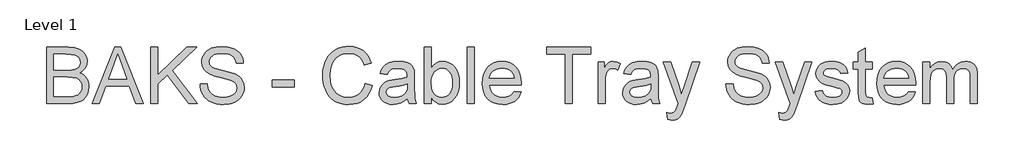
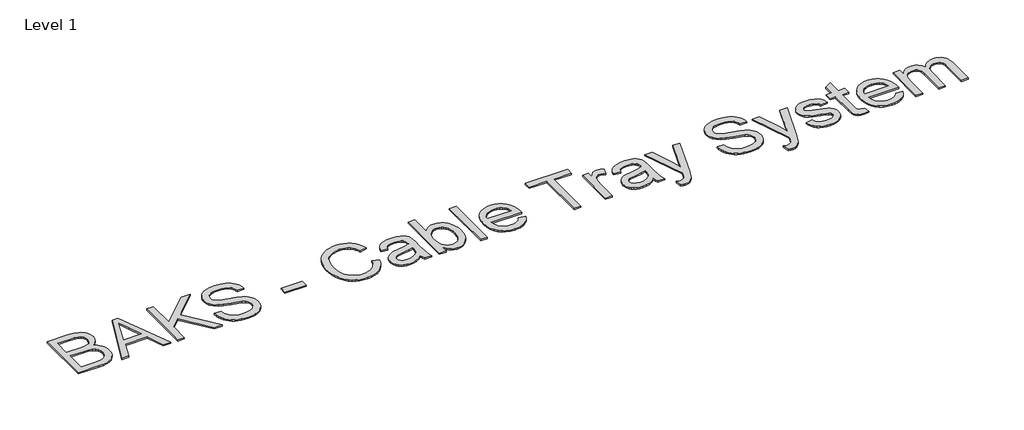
# One storey, part 16 of 32: 1 proxy.
"""IFC4 building model written with IfcOpenShell, lengths in millimetres."""

from ifc_helpers import new_model, si_unit, origin, origin_with_axes, place, context, project, spatial, polyline, outline, extrude, element, save

model = new_model("IFC4")

# Units and contexts
model_context = context("Model", 3, world=origin())
ifc_project = project(units=[si_unit("LENGTHUNIT", "METRE", prefix="MILLI")], contexts=[model_context])

# Site, building, storey
site = spatial("IfcSite", under=ifc_project)
building = spatial("IfcBuilding", under=site)
storey = spatial("IfcBuildingStorey", under=building, Name="Level 1", Elevation=0.0)

# Proxy
placement = place(None, origin())
element("IfcBuildingElementProxy", 1, Name="600mm Arial", ObjectType="600mm Arial", at=placement, inside=storey, context=model_context, shape_type="SweptSolid", body=[
    extrude(outline(polyline([(-18652.1736958, 74450.7318965), (-18652.1736958, 75053.4697574), (-18422.1738724, 75053.4697574), (-18358.9165633, 75049.0367793), (-18309.5284054, 75035.7378452), (-18289.4512456, 75025.6808712), (-18271.6733481, 75013.2418612), (-18256.1947132, 74998.4208153), (-18243.0153407, 74981.2177335), (-18224.9707289, 74943.5466172), (-18218.9558582, 74904.1096673), (-18224.0142357, 74867.8181085), (-18239.189368, 74833.6970535), (-18264.5916197, 74803.8434295), (-18300.3313556, 74780.3541642), (-18277.5916497, 74770.6604736), (-18257.63865, 74758.0605152), (-18240.4723564, 74742.5542891), (-18226.0927689, 74724.1417953), (-18214.7298138, 74703.3840537), (-18206.6134173, 74680.8420845), (-18201.7435794, 74656.5158875), (-18200.1203001, 74630.4054629), (-18204.5532781, 74588.374945), (-18217.8522123, 74549.3978476), (-18237.6994459, 74516.2516798), (-18261.7773225, 74491.7139507), (-18291.2630644, 74473.9452504), (-18327.333894, 74461.1061687), (-18371.1670337, 74453.3254645), (-18423.9397059, 74450.7318965), (-18652.1736958, 74450.7318965)]), holes=[polyline([(-18576.8314631, 74808.6075014), (-18439.2435969, 74808.6075014), (-18391.124632, 74810.2261822), (-18358.8981692, 74815.0822245), (-18330.7735907, 74826.247443), (-18310.558475, 74842.9676797), (-18298.3631869, 74864.9854171), (-18294.2980908, 74892.0431379), (-18298.0872754, 74918.3099123), (-18309.4548291, 74941.1921724), (-18327.885717, 74959.0528433), (-18352.8649045, 74970.2548501), (-18391.1982084, 74976.1593561), (-18449.6914456, 74978.1275248), (-18576.8314631, 74978.1275248), (-18576.8314631, 74808.6075014)]), polyline([(-18576.8314631, 74526.0741291), (-18422.3210252, 74526.0741291), (-18366.4029619, 74529.017185), (-18340.4488871, 74535.5470905), (-18319.0933373, 74545.424722), (-18301.7293072, 74559.5697847), (-18287.7497913, 74578.9019836), (-18278.5343474, 74602.5567959), (-18275.4625327, 74629.6696989), (-18279.0677762, 74661.1603977), (-18289.8835069, 74688.2365126), (-18308.7742474, 74709.4081214), (-18336.6045203, 74723.1853021), (-18376.0230761, 74730.7452771), (-18429.6786651, 74733.2652688), (-18576.8314631, 74733.2652688), (-18576.8314631, 74526.0741291)])]), origin_with_axes(), (0.0, 0.0, 1.0), 15.0),
    extrude(outline(polyline([(-18166.7166149, 74450.7318965), (-17926.1217901, 75053.4697574), (-17861.9631701, 75053.4697574), (-17621.3683453, 74450.7318965), (-17700.978009, 74450.7318965), (-17769.9926713, 74639.087478), (-18018.2394417, 74639.087478), (-18087.1069512, 74450.7318965), (-18166.7166149, 74450.7318965)]), holes=[polyline([(-17990.5747156, 74714.4297106), (-17797.5102446, 74714.4297106), (-17851.8096271, 74862.6125783), (-17894.0424801, 74978.1275248), (-17931.5664436, 74875.5620245), (-17990.5747156, 74714.4297106)])]), origin_with_axes(), (0.0, 0.0, 1.0), 15.0),
    extrude(outline(polyline([(-17540.8757647, 74450.7318965), (-17540.8757647, 75053.4697574), (-17465.5335321, 75053.4697574), (-17465.5335321, 74758.4283972), (-17156.5126562, 75053.4697574), (-17051.1512527, 75053.4697574), (-17310.5816357, 74805.6644454), (-17041.7334737, 74450.7318965), (-17133.8511253, 74450.7318965), (-17363.9981014, 74754.7495773), (-17465.5335321, 74657.9230362), (-17465.5335321, 74450.7318965), (-17540.8757647, 74450.7318965)])), origin_with_axes(), (0.0, 0.0, 1.0), 15.0),
    extrude(outline(polyline([(-17013.4801364, 74657.9230362), (-16938.1379038, 74657.9230362), (-16929.4926769, 74616.1132474), (-16913.8576921, 74582.5072271), (-16889.4671159, 74555.8357825), (-16854.5551145, 74534.8297206), (-16811.8808031, 74521.1996926), (-16764.2032965, 74516.65635), (-16722.2279609, 74520.0960467), (-16685.4765495, 74530.4151366), (-16655.696502, 74546.7490972), (-16634.6352578, 74568.2334057), (-16622.1088759, 74592.8998935), (-16617.9334152, 74618.7803919), (-16621.0604122, 74643.9987026), (-16630.4414031, 74665.7957109), (-16649.4976904, 74684.3921457), (-16681.6505768, 74700.0087364), (-16791.3529878, 74728.7771084), (-16863.3658883, 74747.8150017), (-16909.4431082, 74765.9331899), (-16946.9486776, 74791.2802594), (-16973.5281518, 74821.998406), (-16989.3654717, 74857.4254421), (-16994.6445783, 74896.8991802), (-16993.0121019, 74919.3353834), (-16988.1146729, 74941.0266255), (-16979.9522911, 74961.9729066), (-16968.5249566, 74982.1742267), (-16953.9614281, 75000.8074498), (-16936.3904644, 75017.0494398), (-16915.8120652, 75030.900197), (-16892.2262308, 75042.3597211), (-16839.2144353, 75057.7555826), (-16780.5372571, 75062.8875364), (-16716.9672483, 75057.5164593), (-16661.3434907, 75041.4032279), (-16637.0080967, 75029.4010778), (-16615.6525469, 75014.8789361), (-16597.2768412, 74997.8368026), (-16581.8809797, 74978.2746776), (-16569.584524, 74956.7627779), (-16560.5070358, 74933.8713207), (-16554.648515, 74909.6003061), (-16552.0089617, 74883.949734), (-16627.3511943, 74883.949734), (-16632.3911776, 74907.9908224), (-16641.1835573, 74928.9049138), (-16653.7283334, 74946.6920083), (-16670.0255057, 74961.3521058), (-16690.3785771, 74972.8116299), (-16715.0910502, 74980.9970043), (-16744.1629248, 74985.908229), (-16777.5942011, 74987.5453038), (-16812.0923352, 74985.9266231), (-16841.5688801, 74981.0705807), (-16866.0238357, 74972.9771768), (-16885.4572021, 74961.6464114), (-16900.2644524, 74948.0255805), (-16910.8410598, 74933.0619803), (-16917.1870242, 74916.7556109), (-16919.3023457, 74899.1064722), (-16917.8032265, 74883.9221428), (-16913.3058692, 74870.1541592), (-16905.8102735, 74857.8025212), (-16895.3164396, 74846.8672289), (-16878.798538, 74836.5113507), (-16852.7892809, 74826.045108), (-16772.2967004, 74804.7815286), (-16689.2289459, 74784.5848071), (-16638.9762654, 74766.9632595), (-16596.0260424, 74739.6296273), (-16579.4207689, 74723.5623811), (-16566.0620539, 74705.8948483), (-16555.7935477, 74686.7189993), (-16548.4589004, 74666.1268046), (-16542.5911826, 74620.6933782), (-16544.2788413, 74597.1259379), (-16549.3418172, 74574.2482764), (-16557.7801105, 74552.0603935), (-16569.5937211, 74530.5622894), (-16584.5757153, 74510.5862971), (-16602.5191596, 74492.9647495), (-16623.424054, 74477.6976467), (-16647.2903984, 74464.7849887), (-16673.4238157, 74454.5164825), (-16701.1299284, 74447.1818352), (-16761.2602405, 74441.3141174), (-16799.8004781, 74442.89601), (-16835.0757629, 74447.6416877), (-16867.086095, 74455.5511506), (-16895.8314744, 74466.6243987), (-16921.486645, 74480.879826), (-16944.2263508, 74498.3358266), (-16964.0505919, 74518.9924007), (-16980.9593681, 74542.8495481), (-16994.5801989, 74569.1347166), (-17004.540604, 74597.0753542), (-17010.8405831, 74626.6714607), (-17013.4801364, 74657.9230362)])), origin_with_axes(), (0.0, 0.0, 1.0), 15.0),
    extrude(outline(polyline([(-16241.2222522, 74629.6696989), (-16241.2222522, 74705.0119315), (-16005.7777753, 74705.0119315), (-16005.7777753, 74629.6696989), (-16241.2222522, 74629.6696989)])), origin_with_axes(), (0.0, 0.0, 1.0), 15.0),
    extrude(outline(polyline([(-15252.3554491, 74664.9863705), (-15177.0132165, 74645.5622011), (-15191.9216344, 74598.7078305), (-15211.7780651, 74557.767163), (-15236.5825086, 74522.7401985), (-15266.3349649, 74493.6269371), (-15300.3640495, 74470.7400785), (-15337.9983776, 74454.3923223), (-15379.2379493, 74444.5836686), (-15424.0827645, 74441.3141174), (-15470.0266272, 74443.7881238), (-15511.4731324, 74451.2101431), (-15548.4222803, 74463.5801752), (-15580.8740708, 74480.8982201), (-15609.2745609, 74502.9067604), (-15634.0698073, 74529.3482788), (-15655.2598102, 74560.2227753), (-15672.8445696, 74595.5302498), (-15686.65394, 74633.743992), (-15696.517776, 74673.3372918), (-15702.4360776, 74714.310149), (-15704.4088448, 74756.6625637), (-15702.1785602, 74802.1051871), (-15695.4877064, 74844.5495723), (-15684.3362834, 74883.9957192), (-15668.7242913, 74920.4436279), (-15649.0012178, 74953.2908916), (-15625.5165509, 74981.9351034), (-15598.2702907, 75006.3762635), (-15567.262437, 75026.6143717), (-15533.5460521, 75042.4838813), (-15498.1741983, 75053.8192453), (-15461.1468755, 75060.6204637), (-15422.4640837, 75062.8875364), (-15379.3713065, 75059.9536775), (-15339.8561817, 75051.1521008), (-15303.9187093, 75036.4828062), (-15271.5588893, 75015.9457939), (-15243.3101506, 74990.0836896), (-15219.7059221, 74959.4391194), (-15200.7462037, 74924.0120833), (-15186.4309956, 74883.8025812), (-15261.7732282, 74865.8499398), (-15273.6374226, 74895.478236), (-15287.8928499, 74920.7931158), (-15304.5395101, 74941.7945792), (-15323.5774034, 74958.4826262), (-15345.1168942, 74971.1975477), (-15369.2683472, 74980.2796344), (-15396.0317623, 74985.7288865), (-15425.4071397, 74987.5453038), (-15459.206298, 74985.5311499), (-15490.1175826, 74979.4886881), (-15518.1409936, 74969.4179185), (-15543.2765309, 74955.3188411), (-15565.2068964, 74937.8260522), (-15583.6147917, 74917.5741484), (-15598.5002169, 74894.5631296), (-15609.863172, 74868.7929958), (-15624.2657522, 74813.6474847), (-15629.0666122, 74756.8097165), (-15623.3828354, 74687.206443), (-15616.2781143, 74655.9364734), (-15606.3315049, 74627.0209486), (-15593.3820587, 74601.0346841), (-15577.2688273, 74578.5524957), (-15557.9918107, 74559.5743833), (-15535.551009, 74544.1003468), (-15511.0362726, 74532.0935982), (-15485.5374518, 74523.5173492), (-15459.0545466, 74518.3715998), (-15431.5875572, 74516.65635), (-15398.832264, 74518.9924007), (-15368.6981301, 74526.0005527), (-15341.1851554, 74537.680806), (-15316.2933399, 74554.0331607), (-15294.6112948, 74574.9840403), (-15276.7276313, 74600.4598685), (-15262.6423494, 74630.4606452), (-15252.3554491, 74664.9863705)])), origin_with_axes(), (0.0, 0.0, 1.0), 15.0),
    extrude(outline(polyline([(-14800.3020535, 74507.2385709), (-14836.2993067, 74476.3732715), (-14873.3634177, 74456.17655), (-14912.3405151, 74445.0297255), (-14954.0767274, 74441.3141174), (-14987.6229669, 74443.5490005), (-15017.0397309, 74450.2536499), (-15042.3270196, 74461.4280655), (-15063.4848328, 74477.0722473), (-15080.1912739, 74496.192914), (-15092.1244461, 74517.7967842), (-15099.2843495, 74541.8838578), (-15101.6709839, 74568.4541349), (-15098.0657404, 74599.6873163), (-15087.2500097, 74628.0510181), (-15070.5665612, 74652.3312298), (-15049.3581642, 74671.3139408), (-15024.434159, 74685.6613386), (-14996.6038861, 74696.0356109), (-14931.4151965, 74707.3663763), (-14854.3807067, 74719.285753), (-14800.7435119, 74733.2652688), (-14800.3020535, 74750.0406877), (-14805.4891896, 74783.6651021), (-14811.9731098, 74796.1179076), (-14821.050598, 74805.6644454), (-14836.7407651, 74815.1925891), (-14855.8522347, 74821.998406), (-14904.3390817, 74827.4430595), (-14949.2206851, 74823.8194219), (-14980.5642311, 74812.9485089), (-15001.938175, 74792.8437579), (-15016.9109722, 74761.518606), (-15092.2532048, 74770.9363851), (-15079.1749999, 74812.1391685), (-15059.6588601, 74844.5127841), (-15031.8837694, 74869.2712424), (-14994.0287121, 74887.6285539), (-14947.730763, 74898.9961076), (-14894.626997, 74902.7852921), (-14843.6937348, 74899.437566), (-14803.3186858, 74889.3943875), (-14772.8764507, 74874.2928316), (-14751.7416301, 74855.7699732), (-14737.7253261, 74832.869319), (-14728.6386408, 74804.6343758), (-14724.9598208, 74738.7099223), (-14724.9598208, 74644.9735899), (-14721.1338481, 74514.081176), (-14715.4684654, 74481.7259546), (-14706.1242627, 74450.7318965), (-14781.4664953, 74450.7318965), (-14793.5330247, 74476.9250945), (-14800.3020535, 74507.2385709)]), holes=[polyline([(-14800.3020535, 74657.9230362), (-14850.922616, 74645.3782601), (-14921.8502647, 74634.8200469), (-14986.6710722, 74622.6063646), (-15003.5384617, 74614.2554433), (-15016.0280554, 74602.7407369), (-15023.7535773, 74588.9451621), (-15026.3287513, 74573.7516357), (-15020.7185509, 74551.3476222), (-15003.8879496, 74532.9903106), (-14976.2048295, 74520.7398402), (-14938.0370725, 74516.65635), (-14897.570053, 74521.1629044), (-14861.8119231, 74534.6825678), (-14832.8228218, 74554.6033778), (-14812.6628885, 74578.3133724), (-14803.723356, 74602.7407369), (-14800.7435119, 74636.5858804), (-14800.3020535, 74657.9230362)])]), origin_with_axes(), (0.0, 0.0, 1.0), 15.0),
    extrude(outline(polyline([(-14546.0220184, 74450.7318965), (-14621.364251, 74450.7318965), (-14621.364251, 75053.4697574), (-14546.0220184, 75053.4697574), (-14546.0220184, 74829.9446571), (-14521.245166, 74861.8124349), (-14493.2677403, 74884.5751334), (-14462.0897412, 74898.2327525), (-14427.7111687, 74902.7852921), (-14388.8996183, 74898.6834079), (-14352.2217833, 74886.3777552), (-14319.7745914, 74866.6408861), (-14293.6549697, 74840.245353), (-14273.1823367, 74807.4486731), (-14257.6761106, 74768.5083639), (-14247.9088436, 74725.0431062), (-14244.6530879, 74678.6715807), (-14248.0238067, 74625.1631445), (-14258.1359631, 74578.0926432), (-14274.989557, 74537.4600768), (-14298.5845884, 74503.2654454), (-14326.9069035, 74476.1617394), (-14357.9423484, 74456.8019494), (-14391.6909229, 74445.1860754), (-14428.1526271, 74441.3141174), (-14463.6624367, 74446.3081155), (-14495.1439385, 74461.2901097), (-14522.5971323, 74486.2601002), (-14546.0220184, 74521.2180867), (-14546.0220184, 74450.7318965)]), holes=[polyline([(-14546.0220184, 74675.1399135), (-14540.8716705, 74612.3056688), (-14534.4337355, 74588.5037037), (-14525.4206267, 74569.7785101), (-14507.1644827, 74546.5375651), (-14485.9468886, 74529.93689), (-14461.7678444, 74519.976485), (-14434.6273503, 74516.65635), (-14412.094578, 74519.1027653), (-14391.1436984, 74526.4420111), (-14371.7747114, 74538.6740874), (-14353.9876169, 74555.7989943), (-14339.1159873, 74577.7707465), (-14328.4933946, 74604.5433587), (-14322.1198391, 74636.1168309), (-14319.9953206, 74672.4911632), (-14322.0324671, 74709.5552742), (-14328.1439067, 74741.4322491), (-14338.3296395, 74768.1220878), (-14352.5896653, 74789.6247904), (-14369.7375648, 74806.1702832), (-14388.5869186, 74817.9884923), (-14409.1377265, 74825.0794177), (-14431.3899887, 74827.4430595), (-14453.9227609, 74824.9966443), (-14474.8736405, 74817.6573985), (-14494.2426276, 74805.4253221), (-14512.029722, 74788.3004152), (-14526.9013517, 74766.5493923), (-14537.5239443, 74740.4389677), (-14543.8974999, 74709.9691414), (-14546.0220184, 74675.1399135)])]), origin_with_axes(), (0.0, 0.0, 1.0), 15.0),
    extrude(outline(polyline([(-14159.8930763, 74450.7318965), (-14159.8930763, 75053.4697574), (-14084.5508436, 75053.4697574), (-14084.5508436, 74450.7318965), (-14159.8930763, 74450.7318965)])), origin_with_axes(), (0.0, 0.0, 1.0), 15.0),
    extrude(outline(polyline([(-13661.633702, 74582.5808035), (-13587.7629974, 74573.1630245), (-13599.0891643, 74543.576115), (-13614.3792597, 74517.5024786), (-13633.6332836, 74494.9421152), (-13656.851236, 74475.8950249), (-13683.7939937, 74460.7658779), (-13714.2224332, 74449.9593443), (-13748.1365546, 74443.4754241), (-13785.536358, 74441.3141174), (-13832.2849625, 74445.0435211), (-13873.9384014, 74456.2317323), (-13910.4966747, 74474.8787509), (-13941.9597823, 74500.984577), (-13967.2608665, 74533.8226436), (-13985.3330695, 74572.6663838), (-13996.1763914, 74617.5157975), (-13999.790832, 74668.3708848), (-13996.1396032, 74720.950419), (-13985.1859167, 74767.2943533), (-13966.9297727, 74807.4026878), (-13941.3711711, 74841.2754226), (-13909.9908369, 74868.1859905), (-13874.2694952, 74887.4078247), (-13834.2071459, 74898.9409253), (-13789.8037891, 74902.7852921), (-13746.8305735, 74898.9501223), (-13707.9684393, 74887.4446129), (-13673.2173863, 74868.2687639), (-13642.5774146, 74841.4225754), (-13617.5660375, 74807.623417), (-13599.7007681, 74767.5886589), (-13588.9816065, 74721.318301), (-13585.4085526, 74668.8123432), (-13585.850011, 74648.5052571), (-13924.4485993, 74648.5052571), (-13920.0845992, 74618.440101), (-13911.4071826, 74592.1089472), (-13898.4163497, 74569.5117957), (-13881.1121003, 74550.6486464), (-13860.4509278, 74535.7770167), (-13837.3893252, 74525.1544241), (-13811.9272926, 74518.7808685), (-13784.06483, 74516.65635), (-13743.9656925, 74520.5926874), (-13710.1941254, 74532.4016994), (-13682.7501285, 74552.8191501), (-13661.633702, 74582.5808035)]), holes=[polyline([(-13924.4485993, 74723.8474897), (-13660.7507852, 74723.8474897), (-13670.9411165, 74763.6523216), (-13679.705905, 74779.3057005), (-13690.9171088, 74792.126388), (-13711.4633182, 74807.5774318), (-13734.842219, 74818.6138916), (-13761.0538112, 74825.2357676), (-13790.0980947, 74827.4430595), (-13816.5901969, 74825.6818245), (-13840.8842041, 74820.3981193), (-13862.9801165, 74811.5919441), (-13882.8779339, 74799.2632987), (-13899.5751779, 74783.9824003), (-13912.0693702, 74766.319466), (-13920.3605107, 74746.2744958), (-13924.4485993, 74723.8474897)])]), origin_with_axes(), (0.0, 0.0, 1.0), 15.0),
    extrude(outline(polyline([(-13114.5195988, 74450.7318965), (-13114.5195988, 74978.1275248), (-13312.2929594, 74978.1275248), (-13312.2929594, 75053.4697574), (-12841.4040055, 75053.4697574), (-12841.4040055, 74978.1275248), (-13039.1773661, 74978.1275248), (-13039.1773661, 74450.7318965), (-13114.5195988, 74450.7318965)])), origin_with_axes(), (0.0, 0.0, 1.0), 15.0),
    extrude(outline(polyline([(-12766.0617729, 74450.7318965), (-12766.0617729, 74893.3675131), (-12700.1373194, 74893.3675131), (-12700.1373194, 74827.8845179), (-12675.7835313, 74865.8499398), (-12653.3427296, 74888.2171651), (-12630.8283515, 74899.1432604), (-12606.2538342, 74902.7852921), (-12568.7298707, 74896.9727566), (-12530.617296, 74879.5351501), (-12555.7804245, 74811.9920157), (-12582.2679281, 74823.5802986), (-12608.7554318, 74827.4430595), (-12631.2514158, 74823.7274514), (-12651.3561668, 74812.5806269), (-12667.5981569, 74794.8487148), (-12678.5058581, 74771.3778435), (-12687.6661198, 74729.2921432), (-12690.7195403, 74683.3804702), (-12690.7195403, 74450.7318965), (-12766.0617729, 74450.7318965)])), origin_with_axes(), (0.0, 0.0, 1.0), 15.0),
    extrude(outline(polyline([(-12200.9950283, 74507.2385709), (-12236.9922816, 74476.3732715), (-12274.0563926, 74456.17655), (-12313.03349, 74445.0297255), (-12354.7697023, 74441.3141174), (-12388.3159418, 74443.5490005), (-12417.7327058, 74450.2536499), (-12443.0199944, 74461.4280655), (-12464.1778077, 74477.0722473), (-12480.8842488, 74496.192914), (-12492.817421, 74517.7967842), (-12499.9773243, 74541.8838578), (-12502.3639588, 74568.4541349), (-12498.7587152, 74599.6873163), (-12487.9429846, 74628.0510181), (-12471.2595361, 74652.3312298), (-12450.0511391, 74671.3139408), (-12425.1271339, 74685.6613386), (-12397.296861, 74696.0356109), (-12332.1081714, 74707.3663763), (-12255.0736816, 74719.285753), (-12201.4364867, 74733.2652688), (-12200.9950283, 74750.0406877), (-12206.1821645, 74783.6651021), (-12212.6660846, 74796.1179076), (-12221.7435729, 74805.6644454), (-12237.43374, 74815.1925891), (-12256.5452096, 74821.998406), (-12305.0320566, 74827.4430595), (-12349.91366, 74823.8194219), (-12381.257206, 74812.9485089), (-12402.6311499, 74792.8437579), (-12417.6039471, 74761.518606), (-12492.9461797, 74770.9363851), (-12479.8679748, 74812.1391685), (-12460.3518349, 74844.5127841), (-12432.5767443, 74869.2712424), (-12394.721687, 74887.6285539), (-12348.4237379, 74898.9961076), (-12295.3199719, 74902.7852921), (-12244.3867097, 74899.437566), (-12204.0116607, 74889.3943875), (-12173.5694256, 74874.2928316), (-12152.434605, 74855.7699732), (-12138.418301, 74832.869319), (-12129.3316157, 74804.6343758), (-12125.6527957, 74738.7099223), (-12125.6527957, 74644.9735899), (-12121.826823, 74514.081176), (-12116.1614402, 74481.7259546), (-12106.8172376, 74450.7318965), (-12182.1594702, 74450.7318965), (-12194.2259996, 74476.9250945), (-12200.9950283, 74507.2385709)]), holes=[polyline([(-12200.9950283, 74657.9230362), (-12251.6155909, 74645.3782601), (-12322.5432395, 74634.8200469), (-12387.3640471, 74622.6063646), (-12404.2314366, 74614.2554433), (-12416.7210303, 74602.7407369), (-12424.4465522, 74588.9451621), (-12427.0217262, 74573.7516357), (-12421.4115257, 74551.3476222), (-12404.5809245, 74532.9903106), (-12376.8978043, 74520.7398402), (-12338.7300473, 74516.65635), (-12298.2630279, 74521.1629044), (-12262.5048979, 74534.6825678), (-12233.5157967, 74554.6033778), (-12213.3558634, 74578.3133724), (-12204.4163309, 74602.7407369), (-12201.4364867, 74636.5858804), (-12200.9950283, 74657.9230362)])]), origin_with_axes(), (0.0, 0.0, 1.0), 15.0),
    extrude(outline(polyline([(-12022.0572259, 74281.2118731), (-12031.475005, 74353.7582025), (-11993.2152775, 74347.1363266), (-11973.0921323, 74349.2148599), (-11957.4571475, 74355.4504597), (-11945.2802535, 74365.4016677), (-11935.5313806, 74378.6270254), (-11914.9299889, 74434.1036303), (-11909.043877, 74452.3505773), (-12069.1461213, 74893.3675131), (-11989.6836103, 74893.3675131), (-11904.7764458, 74647.6223403), (-11875.1987334, 74549.3242712), (-11845.621021, 74636.144422), (-11758.3594117, 74893.3675131), (-11679.485512, 74893.3675131), (-11833.5544916, 74440.136895), (-11873.5800526, 74341.8388259), (-11894.0710798, 74310.4584917), (-11917.2844337, 74288.7166658), (-11944.2501839, 74276.024737), (-11975.9984001, 74271.794094), (-11997.8138024, 74274.1485388), (-12022.0572259, 74281.2118731)])), origin_with_axes(), (0.0, 0.0, 1.0), 15.0),
    extrude(outline(polyline([(-11400.4838068, 74657.9230362), (-11325.1415742, 74657.9230362), (-11316.4963473, 74616.1132474), (-11300.8613625, 74582.5072271), (-11276.4707863, 74555.8357825), (-11241.5587849, 74534.8297206), (-11198.8844735, 74521.1996926), (-11151.2069669, 74516.65635), (-11109.2316313, 74520.0960467), (-11072.4802199, 74530.4151366), (-11042.7001724, 74546.7490972), (-11021.6389282, 74568.2334057), (-11009.1125463, 74592.8998935), (-11004.9370856, 74618.7803919), (-11008.0640826, 74643.9987026), (-11017.4450735, 74665.7957109), (-11036.5013608, 74684.3921457), (-11068.6542472, 74700.0087364), (-11178.3566581, 74728.7771084), (-11250.3695587, 74747.8150017), (-11296.4467786, 74765.9331899), (-11333.952348, 74791.2802594), (-11360.5318222, 74821.998406), (-11376.369142, 74857.4254421), (-11381.6482487, 74896.8991802), (-11380.0157723, 74919.3353834), (-11375.1183433, 74941.0266255), (-11366.9559615, 74961.9729066), (-11355.528627, 74982.1742267), (-11340.9650985, 75000.8074498), (-11323.3941347, 75017.0494398), (-11302.8157356, 75030.900197), (-11279.2299012, 75042.3597211), (-11226.2181057, 75057.7555826), (-11167.5409275, 75062.8875364), (-11103.9709187, 75057.5164593), (-11048.347161, 75041.4032279), (-11024.0117671, 75029.4010778), (-11002.6562172, 75014.8789361), (-10984.2805116, 74997.8368026), (-10968.8846501, 74978.2746776), (-10956.5881944, 74956.7627779), (-10947.5107062, 74933.8713207), (-10941.6521854, 74909.6003061), (-10939.0126321, 74883.949734), (-11014.3548647, 74883.949734), (-11019.394848, 74907.9908224), (-11028.1872277, 74928.9049138), (-11040.7320037, 74946.6920083), (-11057.0291761, 74961.3521058), (-11077.3822475, 74972.8116299), (-11102.0947205, 74980.9970043), (-11131.1665952, 74985.908229), (-11164.5978715, 74987.5453038), (-11199.0960056, 74985.9266231), (-11228.5725505, 74981.0705807), (-11253.0275061, 74972.9771768), (-11272.4608725, 74961.6464114), (-11287.2681228, 74948.0255805), (-11297.8447302, 74933.0619803), (-11304.1906946, 74916.7556109), (-11306.3060161, 74899.1064722), (-11304.8068969, 74883.9221428), (-11300.3095395, 74870.1541592), (-11292.8139439, 74857.8025212), (-11282.32011, 74846.8672289), (-11265.8022084, 74836.5113507), (-11239.7929513, 74826.045108), (-11159.3003708, 74804.7815286), (-11076.2326163, 74784.5848071), (-11025.9799357, 74766.9632595), (-10983.0297128, 74739.6296273), (-10966.4244392, 74723.5623811), (-10953.0657243, 74705.8948483), (-10942.7972181, 74686.7189993), (-10935.4625708, 74666.1268046), (-10929.594853, 74620.6933782), (-10931.2825117, 74597.1259379), (-10936.3454876, 74574.2482764), (-10944.7837809, 74552.0603935), (-10956.5973915, 74530.5622894), (-10971.5793857, 74510.5862971), (-10989.52283, 74492.9647495), (-11010.4277244, 74477.6976467), (-11034.2940688, 74464.7849887), (-11060.4274861, 74454.5164825), (-11088.1335988, 74447.1818352), (-11148.2639109, 74441.3141174), (-11186.8041485, 74442.89601), (-11222.0794333, 74447.6416877), (-11254.0897654, 74455.5511506), (-11282.8351448, 74466.6243987), (-11308.4903154, 74480.879826), (-11331.2300212, 74498.3358266), (-11351.0542623, 74518.9924007), (-11367.9630385, 74542.8495481), (-11381.5838693, 74569.1347166), (-11391.5442743, 74597.0753542), (-11397.8442535, 74626.6714607), (-11400.4838068, 74657.9230362)])), origin_with_axes(), (0.0, 0.0, 1.0), 15.0),
    extrude(outline(polyline([(-10825.9992832, 74281.2118731), (-10835.4170622, 74353.7582025), (-10797.1573347, 74347.1363266), (-10777.0341896, 74349.2148599), (-10761.3992048, 74355.4504597), (-10749.2223108, 74365.4016677), (-10739.4734379, 74378.6270254), (-10718.8720462, 74434.1036303), (-10712.9859342, 74452.3505773), (-10873.0881785, 74893.3675131), (-10793.6256676, 74893.3675131), (-10708.7185031, 74647.6223403), (-10679.1407907, 74549.3242712), (-10649.5630783, 74636.144422), (-10562.301469, 74893.3675131), (-10483.4275693, 74893.3675131), (-10637.4965488, 74440.136895), (-10677.5221099, 74341.8388259), (-10698.013137, 74310.4584917), (-10721.2264909, 74288.7166658), (-10748.1922412, 74276.024737), (-10779.9404574, 74271.794094), (-10801.7558597, 74274.1485388), (-10825.9992832, 74281.2118731)])), origin_with_axes(), (0.0, 0.0, 1.0), 15.0),
    extrude(outline(polyline([(-10449.2881201, 74582.5808035), (-10373.9458875, 74591.9985826), (-10369.3933478, 74574.8184934), (-10362.063299, 74559.7721198), (-10351.9557412, 74546.8594618), (-10339.0706743, 74536.0805194), (-10323.3713102, 74527.5824453), (-10304.8208606, 74521.5123923), (-10259.166705, 74516.65635), (-10214.0643724, 74521.1077221), (-10196.5347953, 74526.6719373), (-10182.3529444, 74534.4618386), (-10163.5909626, 74553.8124315), (-10158.9004672, 74564.6465563), (-10157.3369687, 74576.2532332), (-10158.9096643, 74586.4251704), (-10163.6277508, 74595.4566734), (-10182.5000972, 74610.0983768), (-10210.7166462, 74619.6633087), (-10260.0496218, 74631.5826853), (-10328.8067667, 74651.4667071), (-10373.5044291, 74668.4444612), (-10402.2176188, 74686.9673197), (-10423.0213456, 74711.4866547), (-10435.6580922, 74740.4389677), (-10439.870341, 74772.2607603), (-10436.4858267, 74801.4521966), (-10426.3322836, 74828.3995527), (-10410.3294168, 74852.0359709), (-10389.3969313, 74871.2945934), (-10368.5932045, 74883.4163051), (-10341.4986955, 74893.5882423), (-10310.1735436, 74900.4860297), (-10276.677888, 74902.7852921), (-10227.639218, 74899.0880781), (-10185.0016948, 74887.9964359), (-10150.7150928, 74870.5956176), (-10126.7291867, 74847.9708749), (-10110.8366845, 74818.4483448), (-10100.8302943, 74780.3541642), (-10176.1725269, 74770.9363851), (-10185.6822765, 74794.6463797), (-10204.4994405, 74812.5070505), (-10232.80796, 74823.7090573), (-10270.791776, 74827.4430595), (-10314.0546987, 74823.8746042), (-10342.8966471, 74813.1692381), (-10359.1202431, 74797.7181943), (-10364.5281084, 74779.9127058), (-10362.2840282, 74768.3244229), (-10355.5517877, 74757.9869388), (-10344.0370813, 74748.7531008), (-10327.4456033, 74741.3586727), (-10262.5512194, 74725.3190177), (-10151.9658916, 74689.8551933), (-10122.7560612, 74672.8958334), (-10100.6095651, 74649.6824795), (-10086.6484434, 74620.1415553), (-10081.9947361, 74584.1994843), (-10087.4577837, 74547.0434028), (-10103.8469266, 74512.0946133), (-10130.5367654, 74482.0938366), (-10166.9019006, 74459.7817936), (-10210.8270108, 74445.9310364), (-10260.1967746, 74441.3141174), (-10300.7465675, 74443.5398035), (-10336.1644066, 74450.2168617), (-10366.4502918, 74461.345292), (-10391.6042233, 74476.9250945), (-10412.1504327, 74496.8826928), (-10428.613152, 74521.1445103), (-10440.9923811, 74549.7105473), (-10449.2881201, 74582.5808035)])), origin_with_axes(), (0.0, 0.0, 1.0), 15.0),
    extrude(outline(polyline([(-9837.1324801, 74513.5661412), (-9827.7147011, 74448.5246045), (-9884.0742227, 74441.3141174), (-9920.2370228, 74444.4411144), (-9947.2027731, 74453.8221052), (-9966.2590604, 74468.2798676), (-9978.6934719, 74486.6371792), (-9985.536077, 74518.1646662), (-9987.8169454, 74572.1329549), (-9987.8169454, 74818.0252805), (-10044.3236198, 74818.0252805), (-10044.3236198, 74893.3675131), (-9987.8169454, 74893.3675131), (-9987.8169454, 75000.9362085), (-9912.4747127, 75045.2292007), (-9912.4747127, 74893.3675131), (-9837.1324801, 74893.3675131), (-9837.1324801, 74818.0252805), (-9912.4747127, 74818.0252805), (-9912.4747127, 74574.3402469), (-9908.5015872, 74535.4919082), (-9895.6257174, 74521.7331215), (-9884.7548044, 74517.9255429), (-9869.9475541, 74516.65635), (-9837.1324801, 74513.5661412)])), origin_with_axes(), (0.0, 0.0, 1.0), 15.0),
    extrude(outline(polyline([(-9451.8864548, 74582.5808035), (-9378.0157501, 74573.1630245), (-9389.3419171, 74543.576115), (-9404.6320125, 74517.5024786), (-9423.8860364, 74494.9421152), (-9447.1039888, 74475.8950249), (-9474.0467465, 74460.7658779), (-9504.475186, 74449.9593443), (-9538.3893074, 74443.4754241), (-9575.7891108, 74441.3141174), (-9622.5377153, 74445.0435211), (-9664.1911542, 74456.2317323), (-9700.7494275, 74474.8787509), (-9732.2125351, 74500.984577), (-9757.5136193, 74533.8226436), (-9775.5858223, 74572.6663838), (-9786.4291441, 74617.5157975), (-9790.0435847, 74668.3708848), (-9786.3923559, 74720.950419), (-9775.4386695, 74767.2943533), (-9757.1825255, 74807.4026878), (-9731.6239239, 74841.2754226), (-9700.2435897, 74868.1859905), (-9664.522248, 74887.4078247), (-9624.4598987, 74898.9409253), (-9580.0565419, 74902.7852921), (-9537.0833263, 74898.9501223), (-9498.2211921, 74887.4446129), (-9463.4701391, 74868.2687639), (-9432.8301674, 74841.4225754), (-9407.8187903, 74807.623417), (-9389.9535209, 74767.5886589), (-9379.2343593, 74721.318301), (-9375.6613054, 74668.8123432), (-9376.1027638, 74648.5052571), (-9714.7013521, 74648.5052571), (-9710.337352, 74618.440101), (-9701.6599354, 74592.1089472), (-9688.6691025, 74569.5117957), (-9671.3648531, 74550.6486464), (-9650.7036805, 74535.7770167), (-9627.642078, 74525.1544241), (-9602.1800454, 74518.7808685), (-9574.3175828, 74516.65635), (-9534.2184453, 74520.5926874), (-9500.4468781, 74532.4016994), (-9473.0028813, 74552.8191501), (-9451.8864548, 74582.5808035)]), holes=[polyline([(-9714.7013521, 74723.8474897), (-9451.003538, 74723.8474897), (-9461.1938693, 74763.6523216), (-9469.9586578, 74779.3057005), (-9481.1698616, 74792.126388), (-9501.716071, 74807.5774318), (-9525.0949718, 74818.6138916), (-9551.306564, 74825.2357676), (-9580.3508475, 74827.4430595), (-9606.8429497, 74825.6818245), (-9631.1369569, 74820.3981193), (-9653.2328693, 74811.5919441), (-9673.1306867, 74799.2632987), (-9689.8279307, 74783.9824003), (-9702.322123, 74766.319466), (-9710.6132635, 74746.2744958), (-9714.7013521, 74723.8474897)])]), origin_with_axes(), (0.0, 0.0, 1.0), 15.0),
    extrude(outline(polyline([(-9300.3190728, 74450.7318965), (-9300.3190728, 74893.3675131), (-9224.9768402, 74893.3675131), (-9224.9768402, 74820.526878), (-9202.3153093, 74853.9857455), (-9173.1790552, 74880.1973376), (-9138.5613595, 74897.1383035), (-9099.4555034, 74902.7852921), (-9057.5537441, 74897.0279389), (-9039.7206644, 74889.8312474), (-9023.966118, 74879.7558792), (-8998.8765659, 74852.1095473), (-8982.4690289, 74815.2293773), (-8955.006638, 74853.53509), (-8923.6814861, 74880.8963134), (-8888.4935733, 74897.3130475), (-8849.4428995, 74902.7852921), (-8819.2811744, 74900.5090223), (-8792.8074663, 74893.6802128), (-8770.0217752, 74882.2988635), (-8750.9241012, 74866.3649746), (-8735.8271438, 74845.694605), (-8725.0436028, 74820.1038137), (-8718.5734782, 74789.5926008), (-8716.41677, 74754.1609661), (-8716.41677, 74450.7318965), (-8791.7590026, 74450.7318965), (-8791.7590026, 74721.7873505), (-8793.5064421, 74759.3664963), (-8798.7487605, 74784.6951717), (-8808.5712098, 74802.0408078), (-8824.0590418, 74815.6708357), (-8843.9798518, 74824.5000036), (-8867.1012352, 74827.4430595), (-8888.4521865, 74825.5576643), (-8907.9177426, 74819.9014786), (-8925.4979035, 74810.4745025), (-8941.1926691, 74797.2767359), (-8954.1007286, 74779.9219028), (-8963.3207711, 74758.023727), (-8968.8527966, 74731.5822086), (-8970.6968051, 74700.5973476), (-8970.6968051, 74450.7318965), (-9046.0390377, 74450.7318965), (-9046.0390377, 74730.17506), (-9050.3984393, 74772.7757951), (-9055.8476914, 74789.4960317), (-9063.4766443, 74803.1628479), (-9073.5888006, 74813.7854405), (-9086.4876631, 74821.3730066), (-9102.1732316, 74825.9255463), (-9120.6455063, 74827.4430595), (-9149.6713957, 74823.3963576), (-9176.4164168, 74811.2562517), (-9198.4893365, 74791.3170476), (-9213.4989219, 74763.8730508), (-9222.1073606, 74725.7972643), (-9224.9768402, 74673.9626911), (-9224.9768402, 74450.7318965), (-9300.3190728, 74450.7318965)])), origin_with_axes(), (0.0, 0.0, 1.0), 15.0),
])

save(model, "model.ifc")
